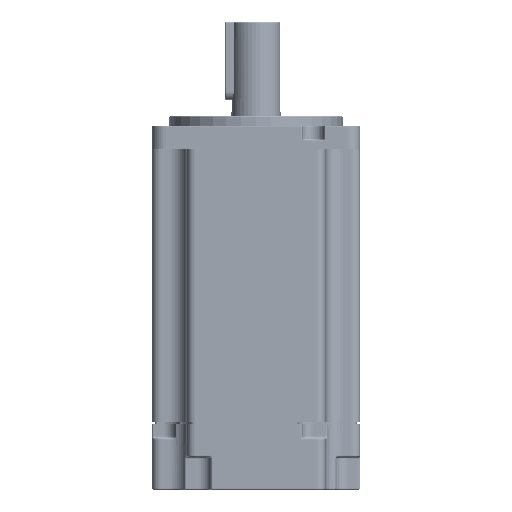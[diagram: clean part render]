
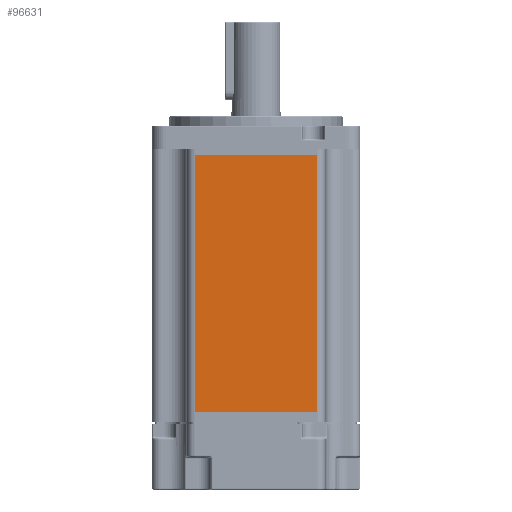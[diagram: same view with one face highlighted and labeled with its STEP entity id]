
A CAD part, front view. The second image highlights one B-rep face of the part: STEP entity #96631.
In plain terms, the highlighted planar face has unit normal (0, -1, 0).
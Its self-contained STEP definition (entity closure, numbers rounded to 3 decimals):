
#473 = DIRECTION ( 'NONE',  ( 1., 0., 0. ) ) ;
#3885 = CARTESIAN_POINT ( 'NONE',  ( 17.55, -30., 0. ) ) ;
#28902 = FACE_OUTER_BOUND ( 'NONE', #198718, .T. ) ;
#29597 = LINE ( 'NONE', #187738, #253612 ) ;
#38732 = CARTESIAN_POINT ( 'NONE',  ( -17.55, -30., 0. ) ) ;
#42573 = VECTOR ( 'NONE', #171609, 1000. ) ;
#42723 = ORIENTED_EDGE ( 'NONE', *, *, #113657, .F. ) ;
#53275 = DIRECTION ( 'NONE',  ( 0., 1., 0. ) ) ;
#53866 = ORIENTED_EDGE ( 'NONE', *, *, #181123, .T. ) ;
#54244 = LINE ( 'NONE', #3885, #197178 ) ;
#57119 = VERTEX_POINT ( 'NONE', #38732 ) ;
#74806 = VERTEX_POINT ( 'NONE', #149263 ) ;
#92402 = DIRECTION ( 'NONE',  ( 0., 0., 1. ) ) ;
#94199 = EDGE_CURVE ( 'NONE', #74806, #114167, #157531, .T. ) ;
#96631 = ADVANCED_FACE ( 'NONE', ( #28902 ), #214929, .F. ) ;
#98988 = ORIENTED_EDGE ( 'NONE', *, *, #135855, .T. ) ;
#106859 = DIRECTION ( 'NONE',  ( 1., 0., 0. ) ) ;
#106951 = DIRECTION ( 'NONE',  ( 0., 0., -1. ) ) ;
#110401 = CARTESIAN_POINT ( 'NONE',  ( -17.55, -30., 74. ) ) ;
#111736 = VECTOR ( 'NONE', #106859, 1000. ) ;
#113657 = EDGE_CURVE ( 'NONE', #196156, #74806, #114971, .T. ) ;
#114167 = VERTEX_POINT ( 'NONE', #127367 ) ;
#114971 = LINE ( 'NONE', #185927, #111736 ) ;
#127367 = CARTESIAN_POINT ( 'NONE',  ( 17.55, -30., 0. ) ) ;
#135855 = EDGE_CURVE ( 'NONE', #196156, #57119, #29597, .T. ) ;
#149263 = CARTESIAN_POINT ( 'NONE',  ( 17.55, -30., 74. ) ) ;
#157531 = LINE ( 'NONE', #212495, #42573 ) ;
#171609 = DIRECTION ( 'NONE',  ( 0., 0., -1. ) ) ;
#181123 = EDGE_CURVE ( 'NONE', #57119, #114167, #54244, .T. ) ;
#185927 = CARTESIAN_POINT ( 'NONE',  ( 17.55, -30., 74. ) ) ;
#187738 = CARTESIAN_POINT ( 'NONE',  ( -17.55, -30., 74. ) ) ;
#196156 = VERTEX_POINT ( 'NONE', #110401 ) ;
#197178 = VECTOR ( 'NONE', #473, 1000. ) ;
#197443 = ORIENTED_EDGE ( 'NONE', *, *, #94199, .F. ) ;
#198718 = EDGE_LOOP ( 'NONE', ( #53866, #197443, #42723, #98988 ) ) ;
#212495 = CARTESIAN_POINT ( 'NONE',  ( 17.55, -30., 74. ) ) ;
#214076 = CARTESIAN_POINT ( 'NONE',  ( 17.55, -30., 74. ) ) ;
#214929 = PLANE ( 'NONE',  #248082 ) ;
#248082 = AXIS2_PLACEMENT_3D ( 'NONE', #214076, #53275, #92402 ) ;
#253612 = VECTOR ( 'NONE', #106951, 1000. ) ;
